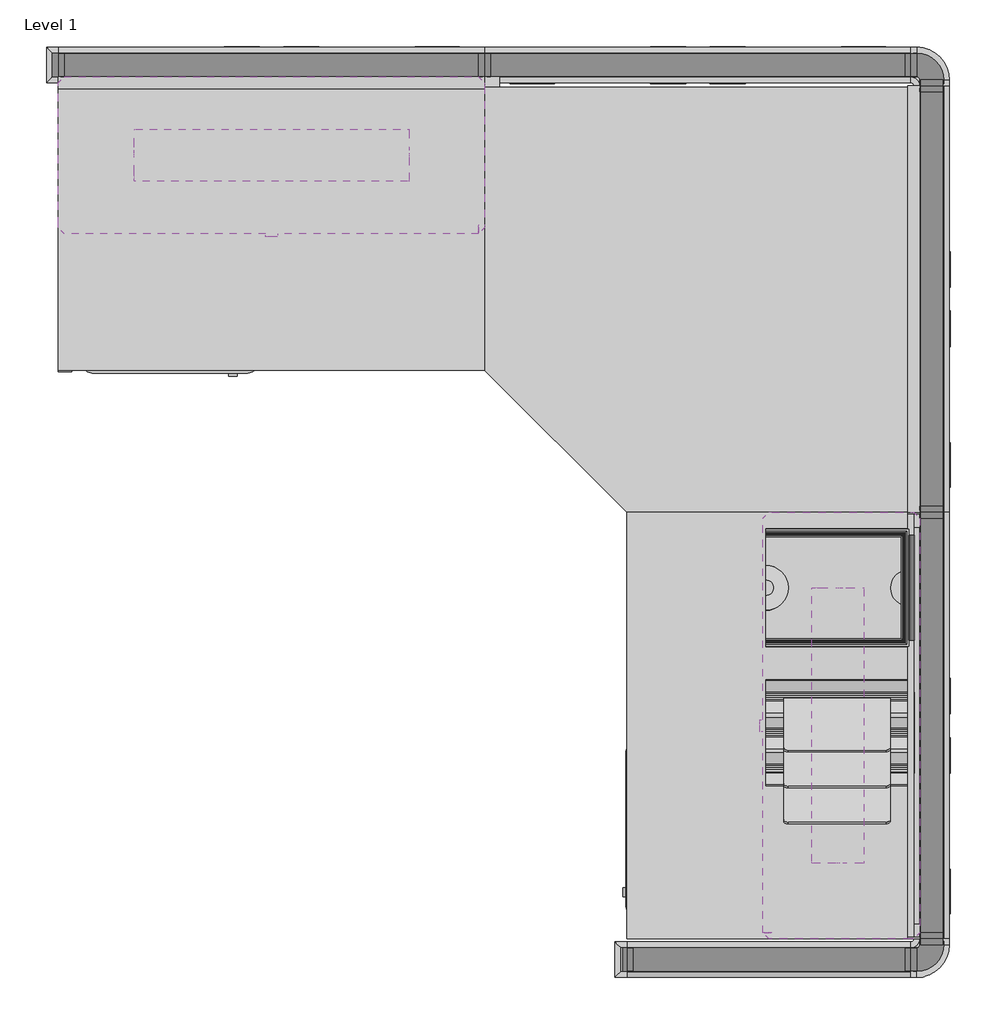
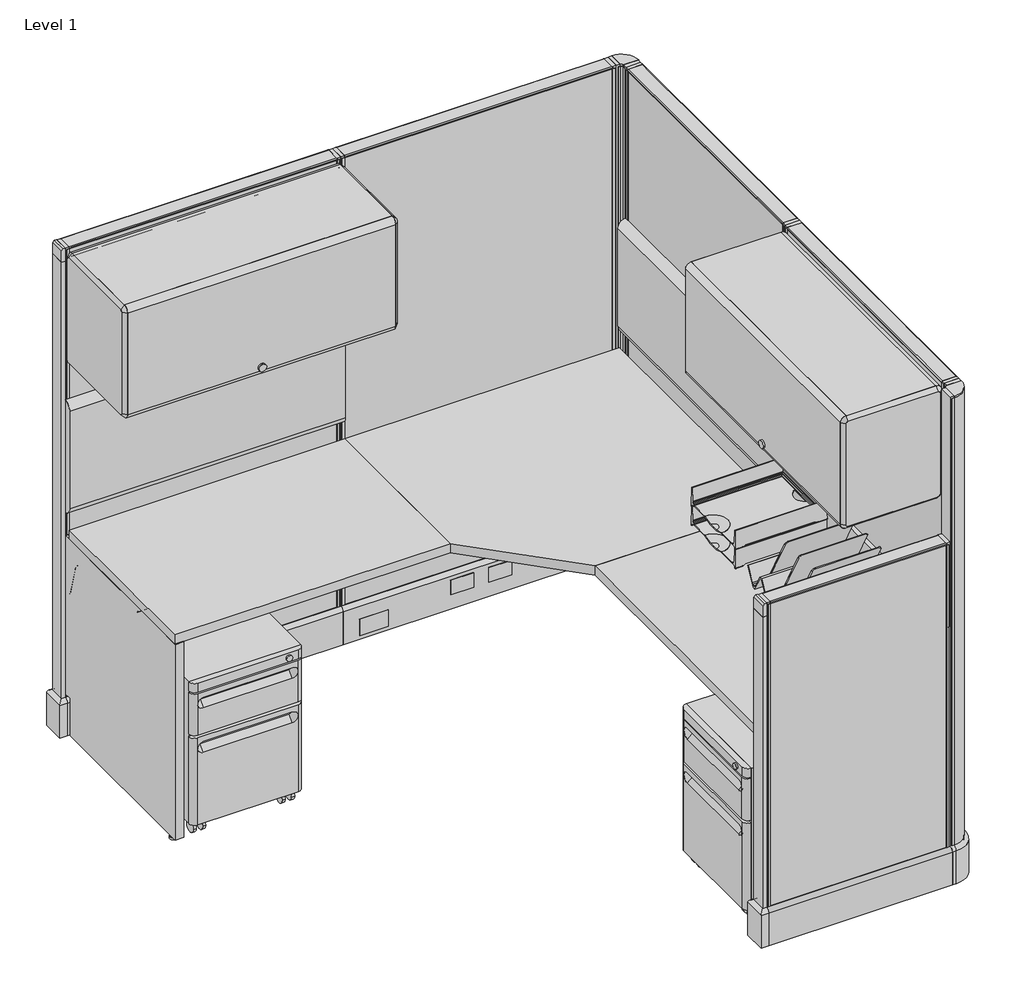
# One storey, incomplete: 24 furniture elements, 2 light fixtures.
"""IFC4 building model written with IfcOpenShell, lengths in millimetres."""

from ifc_helpers import new_model, si_unit, origin, place, context, project, spatial, transform, mapped, element, save
from components import furniture_75fc3fe0, furniture_3ab3b130, furniture_a2665887, furniture_22e63fa4, furniture_bbcc936f, furniture_2925ff6b, furniture_bd327418, furniture_024b4420, furniture_cadd35e2, furniture_457a0db2, furniture_84c54a78, furniture_b7c7402d, furniture_9d04d1cc, furniture_cbf60e6f, furniture_5c2546f9, furniture_ba981915, light_fixture_9998b344

model = new_model("IFC4")

# Units and contexts
model_context = context("Model", 3, world=origin())
ifc_project = project(units=[si_unit("LENGTHUNIT", "METRE", prefix="MILLI")], contexts=[model_context])

# Site, building, storey
site = spatial("IfcSite", under=ifc_project)
building = spatial("IfcBuilding", under=site)
storey = spatial("IfcBuildingStorey", under=building, Name="Level 1", Elevation=0.0)

# Furniture
placement = place(None, origin())
furniture_shape = furniture_75fc3fe0(model_context)
element("IfcFurniture", 1, ObjectType="HermanMiller_ThrivePortfolio_Y7218_DiagonalTray : 8 1/2\"H x 12\"D x 13\"W", at=placement, inside=storey, context=model_context, shape_type="MappedRepresentation", body=[
    mapped(furniture_shape, transform((1671.60448, -1456.831997, 0.0), x_axis=(0.0, -1.0, 0.0), y_axis=(1.0, 0.0, 0.0), z_axis=(0.0, 0.0, 1.0))),
])
furniture_2_shape = furniture_3ab3b130(model_context)
element("IfcFurniture", 2, ObjectType="HermanMiller_ThrivePortfolio_Y7216_PaperTray : 3\"H x 12\"D x 10\"W", at=placement, inside=storey, context=model_context, shape_type="MappedRepresentation", body=[
    mapped(furniture_2_shape, transform((1671.60448, -1145.89306, 0.0), x_axis=(0.0, -1.0, 0.0), y_axis=(1.0, 0.0, 0.0), z_axis=(0.0, 0.0, 1.0))),
])
furniture_3_shape = furniture_a2665887(model_context)
element("IfcFurniture", 3, ObjectType="HermanMiller_ThrivePortfolio_Y7216_PaperTray : 3\"H x 12\"D x 10\"W", at=placement, inside=storey, context=model_context, shape_type="MappedRepresentation", body=[
    mapped(furniture_3_shape, transform((1671.60448, -1145.89306, 0.0), x_axis=(0.0, -1.0, 0.0), y_axis=(1.0, 0.0, 0.0), z_axis=(0.0, 0.0, 1.0))),
])
furniture_4_shape = furniture_22e63fa4(model_context)
element("IfcFurniture", 4, ObjectType="HermanMiller_ActionOffice_A1110_Hard-SurfacedPanelStandardBase : 47\"H x 24\"W-N", at=placement, inside=storey, context=model_context, shape_type="MappedRepresentation", body=[
    mapped(furniture_4_shape, transform((1524.0, -1943.0993657, 0.0), x_axis=(-1.0, 0.0, 0.0), y_axis=(0.0, -1.0, 0.0), z_axis=(0.0, 0.0, 1.0))),
])
furniture_5_shape = furniture_bbcc936f(model_context)
element("IfcFurniture", 5, ObjectType="HermanMiller_ActionOffice_A2310_Sq-EdgeRectangularWorkSurface : 24\"D x 36\"W", at=placement, inside=storey, context=model_context, shape_type="MappedRepresentation", body=[
    mapped(furniture_5_shape, transform((457.2, -365.125, 0.0), x_axis=(1.0, 0.0, 0.0), y_axis=(0.0, 1.0, 0.0), z_axis=(0.0, 0.0, 1.0))),
])
element("IfcFurniture", 6, ObjectType="HermanMiller_ActionOffice_A2310_Sq-EdgeRectangularWorkSurface : 24\"D x 36\"W", at=placement, inside=storey, context=model_context, shape_type="MappedRepresentation", body=[
    mapped(furniture_5_shape, transform((1533.525, -1441.45, 0.0), x_axis=(0.0, -1.0, 0.0), y_axis=(1.0, 0.0, 0.0), z_axis=(0.0, 0.0, 1.0))),
])
furniture_6_shape = furniture_2925ff6b(model_context)
element("IfcFurniture", 7, ObjectType="HermanMiller_ActionOffice_A3410_B-StyleTackboard : 16\"H x 36\"W", at=placement, inside=storey, context=model_context, shape_type="MappedRepresentation", body=[
    mapped(furniture_6_shape, transform((457.2, -63.5, 0.0), x_axis=(1.0, 0.0, 0.0), y_axis=(0.0, 1.0, 0.0), z_axis=(0.0, 0.0, 1.0))),
])
element("IfcFurniture", 8, ObjectType="HermanMiller_ActionOffice_A3410_B-StyleTackboard : 16\"H x 36\"W", at=placement, inside=storey, context=model_context, shape_type="MappedRepresentation", body=[
    mapped(furniture_6_shape, transform((1835.15, -527.05, 0.0), x_axis=(0.0, -1.0, 0.0), y_axis=(1.0, 0.0, 0.0), z_axis=(0.0, 0.0, 1.0))),
])
furniture_7_shape = furniture_bd327418(model_context)
element("IfcFurniture", 9, ObjectType="HermanMiller_ActionOffice_A3352_B-StyleFlipperDoorUnit : 15 1/2\"H x 13\"D x 36\"W", at=placement, inside=storey, context=model_context, shape_type="MappedRepresentation", body=[
    mapped(furniture_7_shape, transform((457.2, -231.775, 0.0), x_axis=(1.0, 0.0, 0.0), y_axis=(0.0, 1.0, 0.0), z_axis=(0.0, 0.0, 1.0))),
])
element("IfcFurniture", 10, ObjectType="HermanMiller_ActionOffice_A3352_B-StyleFlipperDoorUnit : 15 1/2\"H x 13\"D x 36\"W", at=placement, inside=storey, context=model_context, shape_type="MappedRepresentation", body=[
    mapped(furniture_7_shape, transform((1666.875, -1441.45, 0.0), x_axis=(0.0, -1.0, 0.0), y_axis=(1.0, 0.0, 0.0), z_axis=(0.0, 0.0, 1.0))),
])
furniture_8_shape = furniture_024b4420(model_context)
element("IfcFurniture", 11, ObjectType="HermanMiller_ActionOffice_A3610_ToolBar : 4\"H x 36\"W", at=placement, inside=storey, context=model_context, shape_type="MappedRepresentation", body=[
    mapped(furniture_8_shape, transform((1835.1500004, -1441.45, 0.0), x_axis=(0.0, -1.0, 0.0), y_axis=(1.0, 0.0, 0.0), z_axis=(0.0, 0.0, 1.0))),
])
furniture_9_shape = furniture_cadd35e2(model_context)
element("IfcFurniture", 12, ObjectType="HermanMiller_ActionOffice_A2332_Sq-EdgeCornerWorkSurface : 24\"D x 36\"W", at=placement, inside=storey, context=model_context, shape_type="MappedRepresentation", body=[
    mapped(furniture_9_shape, transform((1063.625, -812.8, 0.0), x_axis=(0.0, -1.0, 0.0), y_axis=(1.0, 0.0, 0.0), z_axis=(0.0, 0.0, 1.0))),
])
furniture_10_shape = furniture_457a0db2(model_context)
element("IfcFurniture", 13, ObjectType="HermanMiller_ActionOffice_A1110_Hard-SurfacedPanelStandardBase : 67\"H x 36\"W-G", at=placement, inside=storey, context=model_context, shape_type="MappedRepresentation", body=[
    mapped(furniture_10_shape, transform((457.2, -25.4, 0.0), x_axis=(1.0, 0.0, 0.0), y_axis=(0.0, 1.0, 0.0), z_axis=(0.0, 0.0, 1.0))),
])
element("IfcFurniture", 14, ObjectType="HermanMiller_ActionOffice_A1110_Hard-SurfacedPanelStandardBase : 67\"H x 36\"W-G", at=placement, inside=storey, context=model_context, shape_type="MappedRepresentation", body=[
    mapped(furniture_10_shape, transform((1371.6, -25.4, 0.0), x_axis=(1.0, 0.0, 0.0), y_axis=(0.0, 1.0, 0.0), z_axis=(0.0, 0.0, 1.0))),
])
element("IfcFurniture", 15, ObjectType="HermanMiller_ActionOffice_A1110_Hard-SurfacedPanelStandardBase : 67\"H x 36\"W-G", at=placement, inside=storey, context=model_context, shape_type="MappedRepresentation", body=[
    mapped(furniture_10_shape, transform((1873.25, -527.05, 0.0), x_axis=(0.0, -1.0, 0.0), y_axis=(1.0, 0.0, 0.0), z_axis=(0.0, 0.0, 1.0))),
])
element("IfcFurniture", 16, ObjectType="HermanMiller_ActionOffice_A1110_Hard-SurfacedPanelStandardBase : 67\"H x 36\"W-G", at=placement, inside=storey, context=model_context, shape_type="MappedRepresentation", body=[
    mapped(furniture_10_shape, transform((1873.25, -1441.45, 0.0), x_axis=(0.0, -1.0, 0.0), y_axis=(1.0, 0.0, 0.0), z_axis=(0.0, 0.0, 1.0))),
])
furniture_11_shape = furniture_84c54a78(model_context)
element("IfcFurniture", 17, ObjectType="HermanMiller_QuadrantFiling_G5111_MobilePedestal : 21-1/2\"H x 20\"D x 15\"W BF", at=placement, inside=storey, context=model_context, shape_type="MappedRepresentation", body=[
    mapped(furniture_11_shape, transform((1481.127337, -1663.29868, 0.0), x_axis=(0.0, -1.0, 0.0), y_axis=(1.0, 0.0, 0.0), z_axis=(0.0, 0.0, 1.0))),
])
element("IfcFurniture", 18, ObjectType="HermanMiller_QuadrantFiling_G5111_MobilePedestal : 21-1/2\"H x 20\"D x 15\"W BF", at=placement, inside=storey, context=model_context, shape_type="MappedRepresentation", body=[
    mapped(furniture_11_shape, transform((239.44326, -422.132763, 0.0), x_axis=(1.0, 0.0, 0.0), y_axis=(0.0, 1.0, 0.0), z_axis=(0.0, 0.0, 1.0))),
])
furniture_12_shape = furniture_b7c7402d(model_context)
element("IfcFurniture", 19, ObjectType="HermanMiller_ActionOffice_A2380_WorkSuraceSupportPanelEnd : 24\"D", at=placement, inside=storey, context=model_context, shape_type="MappedRepresentation", body=[
    mapped(furniture_12_shape, transform((0.0, -682.625, 0.0), x_axis=(1.0, 0.0, 0.0), y_axis=(0.0, 1.0, 0.0), z_axis=(0.0, 0.0, 1.0))),
])
furniture_13_shape = furniture_9d04d1cc(model_context)
element("IfcFurniture", 20, ObjectType="HermanMiller_ActionOffice_AO259_AO272_FinishedEndChangeOfHeight : 32\"H Panel/Conn", at=placement, inside=storey, context=model_context, shape_type="MappedRepresentation", body=[
    mapped(furniture_13_shape, transform((1761.9290033, -1863.528369, 0.0), x_axis=(-1.0, 0.0, 0.0), y_axis=(0.0, -1.0, 0.0), z_axis=(0.0, 0.0, 1.0))),
])
furniture_14_shape = furniture_cbf60e6f(model_context)
element("IfcFurniture", 21, ObjectType="HermanMiller_ActionOffice_A1271_FinishedEndStandardBase : 47\"H", at=placement, inside=storey, context=model_context, shape_type="MappedRepresentation", body=[
    mapped(furniture_14_shape, transform((3204.0560512, -4391.8381533, 0.0), x_axis=(-1.0, 0.0, 0.0), y_axis=(0.0, -1.0, 0.0), z_axis=(0.0, 0.0, 1.0))),
])
furniture_15_shape = furniture_5c2546f9(model_context)
element("IfcFurniture", 22, ObjectType="HermanMiller_ActionOffice_A1271_FinishedEndStandardBase : 67\"H", at=placement, inside=storey, context=model_context, shape_type="MappedRepresentation", body=[
    mapped(furniture_15_shape, transform((1984.8560512, -2474.1387877, 0.0), x_axis=(-1.0, 0.0, 0.0), y_axis=(0.0, -1.0, 0.0), z_axis=(0.0, 0.0, 1.0))),
])
furniture_16_shape = furniture_ba981915(model_context)
element("IfcFurniture", 23, ObjectType="HermanMiller_ActionOffice_A1220_90ConnectorStandardBase : 67\"H 2-Way-Hard", at=placement, inside=storey, context=model_context, shape_type="MappedRepresentation", body=[
    mapped(furniture_16_shape, transform((1858.7360586, -1936.75, 0.0), x_axis=(0.0, -1.0, 0.0), y_axis=(1.0, 0.0, 0.0), z_axis=(0.0, 0.0, 1.0))),
])
element("IfcFurniture", 24, ObjectType="HermanMiller_ActionOffice_A1220_90ConnectorStandardBase : 67\"H 2-Way-Hard", at=placement, inside=storey, context=model_context, shape_type="MappedRepresentation", body=[
    mapped(furniture_16_shape, transform((1866.9, -39.9139414, 0.0), x_axis=(1.0, 0.0, 0.0), y_axis=(0.0, 1.0, 0.0), z_axis=(0.0, 0.0, 1.0))),
])

# Light fixtures
light_fixture_shape = light_fixture_9998b344(model_context)
element("IfcLightFixture", 25, ObjectType="HermanMiller_SupplementalProducts_G6136_UtilityTaskLight : AO Etho Canvas 30W", at=placement, inside=storey, context=model_context, shape_type="MappedRepresentation", body=[
    mapped(light_fixture_shape, transform((1671.60448, -1440.91406, 0.0), x_axis=(0.0, -1.0, 0.0), y_axis=(1.0, 0.0, 0.0), z_axis=(0.0, 0.0, 1.0))),
])
element("IfcLightFixture", 26, ObjectType="HermanMiller_SupplementalProducts_G6136_UtilityTaskLight : AO Etho Canvas 30W", at=placement, inside=storey, context=model_context, shape_type="MappedRepresentation", body=[
    mapped(light_fixture_shape, transform((457.2, -219.075, 0.0), x_axis=(1.0, 0.0, 0.0), y_axis=(0.0, 1.0, 0.0), z_axis=(0.0, 0.0, 1.0))),
])

save(model, "model.ifc")
